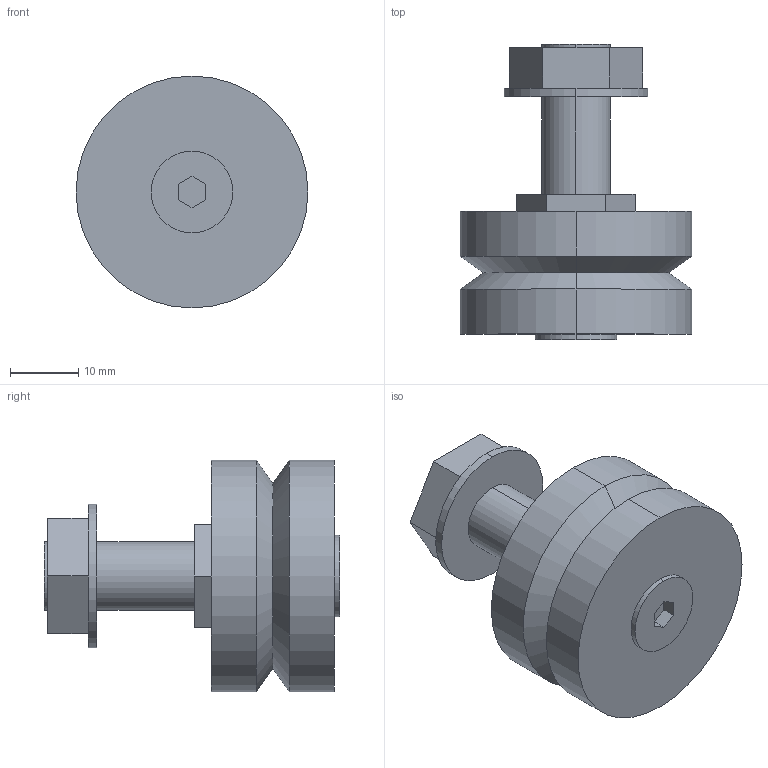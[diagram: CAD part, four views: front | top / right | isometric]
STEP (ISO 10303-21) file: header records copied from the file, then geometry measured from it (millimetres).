
FILE_DESCRIPTION(('STEP AP203'),'1');
FILE_NAME('rlj_34_c.stp','2020-03-05T15:50:06',('TraceParts'),('TraceParts S.A.'),'Spatial InterOp 3D',' ',' ');
FILE_SCHEMA(('CONFIG_CONTROL_DESIGN'));
Length unit declared in the file: millimetre
Products named in the file (1): 1
Bounding box: 34 x 43.3 x 34 mm (x, y, z)
Volume: 19162.5 mm3; surface area: 5652.6 mm2
Topology: 1 solids, 1 shells, 43 faces, 96 edges, 62 vertices
Faces by surface type: plane 27, cylinder 12, cone 4
Entity records: 1232 total; most frequent: DIRECTION 210, CARTESIAN_POINT 202, ORIENTED_EDGE 192, EDGE_CURVE 96, AXIS2_PLACEMENT_3D 70, LINE 70, VECTOR 70, VERTEX_POINT 62
